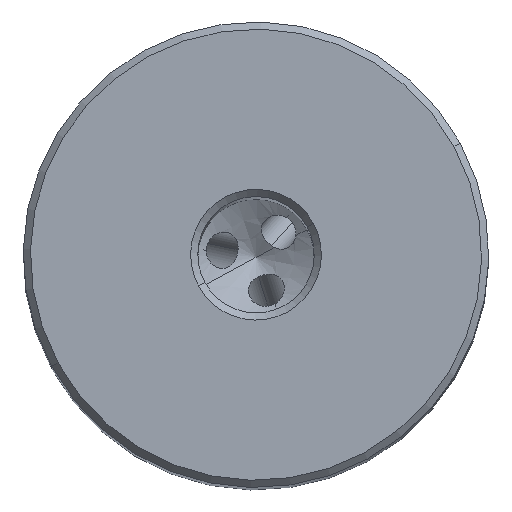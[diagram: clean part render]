
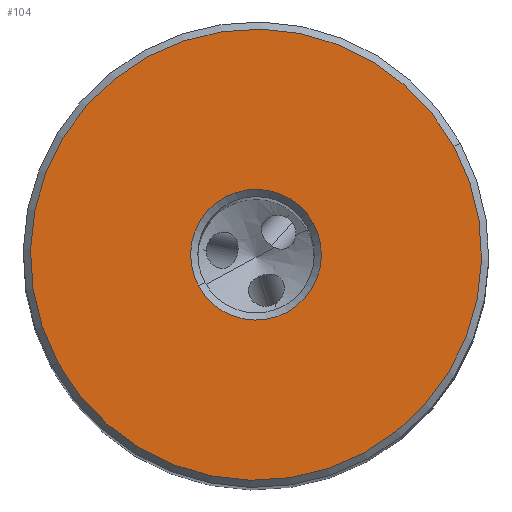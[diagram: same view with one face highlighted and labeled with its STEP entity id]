
A CAD part, top view. The second image highlights one B-rep face of the part: STEP entity #104.
In plain terms, the highlighted planar face has unit normal (0, 0, 1).
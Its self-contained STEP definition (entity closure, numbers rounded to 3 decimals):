
#62=AXIS2_PLACEMENT_3D('Circle Axis2P3D',#60,#61,$) ;
#75=AXIS2_PLACEMENT_3D('Plane Axis2P3D',#72,#73,#74) ;
#79=AXIS2_PLACEMENT_3D('Circle Axis2P3D',#77,#78,$) ;
#88=AXIS2_PLACEMENT_3D('Circle Axis2P3D',#86,#87,$) ;
#97=AXIS2_PLACEMENT_3D('Circle Axis2P3D',#95,#96,$) ;
#41=CARTESIAN_POINT('Vertex',(3.945,2.155,0.)) ;
#57=CARTESIAN_POINT('Vertex',(-3.945,-2.155,0.)) ;
#60=CARTESIAN_POINT('Axis2P3D Location',(0.,0.,0.)) ;
#72=CARTESIAN_POINT('Axis2P3D Location',(-15.505,0.,0.)) ;
#77=CARTESIAN_POINT('Axis2P3D Location',(0.,0.,0.)) ;
#81=CARTESIAN_POINT('Vertex',(13.607,7.434,0.)) ;
#83=CARTESIAN_POINT('Vertex',(-13.607,-7.434,0.)) ;
#86=CARTESIAN_POINT('Axis2P3D Location',(0.,0.,0.)) ;
#95=CARTESIAN_POINT('Axis2P3D Location',(0.,0.,0.)) ;
#61=DIRECTION('Axis2P3D Direction',(0.,0.,1.)) ;
#73=DIRECTION('Axis2P3D Direction',(0.,0.,1.)) ;
#74=DIRECTION('Axis2P3D XDirection',(1.,0.,0.)) ;
#78=DIRECTION('Axis2P3D Direction',(0.,0.,1.)) ;
#87=DIRECTION('Axis2P3D Direction',(0.,0.,1.)) ;
#96=DIRECTION('Axis2P3D Direction',(0.,0.,1.)) ;
#92=ORIENTED_EDGE('',*,*,#85,.T.) ;
#93=ORIENTED_EDGE('',*,*,#90,.T.) ;
#101=ORIENTED_EDGE('',*,*,#64,.F.) ;
#102=ORIENTED_EDGE('',*,*,#99,.F.) ;
#103=FACE_BOUND('',#100,.T.) ;
#104=ADVANCED_FACE('NO_CUT',(#94,#103),#76,.T.) ;
#63=CIRCLE('generated circle',#62,4.495) ;
#80=CIRCLE('generated circle',#79,15.505) ;
#89=CIRCLE('generated circle',#88,15.505) ;
#98=CIRCLE('generated circle',#97,4.495) ;
#64=EDGE_CURVE('',#58,#42,#63,.T.) ;
#85=EDGE_CURVE('',#82,#84,#80,.T.) ;
#90=EDGE_CURVE('',#84,#82,#89,.T.) ;
#99=EDGE_CURVE('',#42,#58,#98,.T.) ;
#91=EDGE_LOOP('',(#92,#93)) ;
#100=EDGE_LOOP('',(#101,#102)) ;
#94=FACE_OUTER_BOUND('',#91,.T.) ;
#76=PLANE('',#75) ;
#42=VERTEX_POINT('',#41) ;
#58=VERTEX_POINT('',#57) ;
#82=VERTEX_POINT('',#81) ;
#84=VERTEX_POINT('',#83) ;
